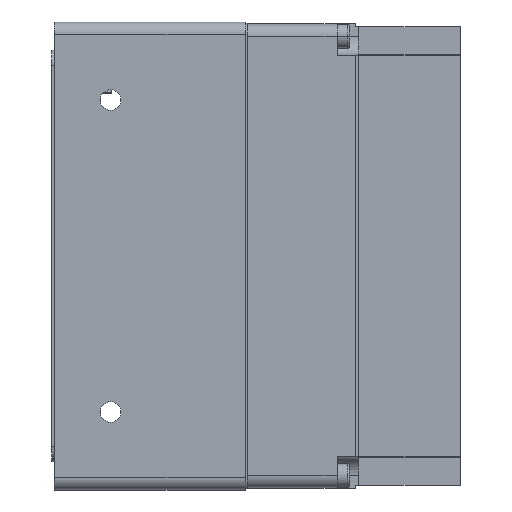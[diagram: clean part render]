
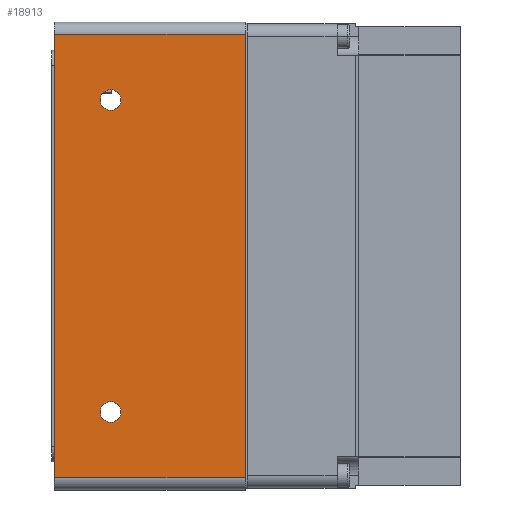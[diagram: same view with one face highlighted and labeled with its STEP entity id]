
A CAD part, left-side view. The second image highlights one B-rep face of the part: STEP entity #18913.
In plain terms, the highlighted planar face has unit normal (-1, 0, 0).
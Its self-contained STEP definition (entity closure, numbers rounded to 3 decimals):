
#162 = CARTESIAN_POINT ( 'NONE',  ( -47.5, 17.75, -35.5 ) ) ;
#646 = CARTESIAN_POINT ( 'NONE',  ( -47.5, 39.3, 25. ) ) ;
#750 = EDGE_LOOP ( 'NONE', ( #12062, #4794 ) ) ;
#793 = CARTESIAN_POINT ( 'NONE',  ( -47.5, 48.3, 55.5 ) ) ;
#964 = EDGE_CURVE ( 'NONE', #15261, #1695, #8756, .T. ) ;
#977 = CARTESIAN_POINT ( 'NONE',  ( -47.5, 48.3, -35.5 ) ) ;
#1108 = ORIENTED_EDGE ( 'NONE', *, *, #11703, .F. ) ;
#1237 = LINE ( 'NONE', #162, #19540 ) ;
#1695 = VERTEX_POINT ( 'NONE', #16387 ) ;
#1969 = DIRECTION ( 'NONE',  ( 0., -1., 0. ) ) ;
#2061 = AXIS2_PLACEMENT_3D ( 'NONE', #646, #13045, #16774 ) ;
#2243 = DIRECTION ( 'NONE',  ( 0., -1., 0. ) ) ;
#3309 = CIRCLE ( 'NONE', #2061, 1.65 ) ;
#3317 = CARTESIAN_POINT ( 'NONE',  ( -47.5, 37.65, 25. ) ) ;
#3901 = AXIS2_PLACEMENT_3D ( 'NONE', #16903, #9602, #20305 ) ;
#4713 = FACE_BOUND ( 'NONE', #750, .T. ) ;
#4794 = ORIENTED_EDGE ( 'NONE', *, *, #16157, .F. ) ;
#5390 = VECTOR ( 'NONE', #21893, 1000. ) ;
#5675 = CARTESIAN_POINT ( 'NONE',  ( -47.5, 40.95, -25. ) ) ;
#6699 = EDGE_CURVE ( 'NONE', #1695, #12284, #7611, .T. ) ;
#7477 = CARTESIAN_POINT ( 'NONE',  ( -47.5, 17.75, 55.5 ) ) ;
#7603 = ORIENTED_EDGE ( 'NONE', *, *, #6699, .T. ) ;
#7611 = LINE ( 'NONE', #793, #5390 ) ;
#7912 = CARTESIAN_POINT ( 'NONE',  ( -47.5, 17.75, 35.5 ) ) ;
#8022 = VERTEX_POINT ( 'NONE', #22908 ) ;
#8215 = CARTESIAN_POINT ( 'NONE',  ( -47.5, 39.3, 25. ) ) ;
#8502 = DIRECTION ( 'NONE',  ( 0., 0., 1. ) ) ;
#8756 = LINE ( 'NONE', #7912, #13463 ) ;
#8842 = AXIS2_PLACEMENT_3D ( 'NONE', #8215, #13468, #20702 ) ;
#8963 = ORIENTED_EDGE ( 'NONE', *, *, #20339, .F. ) ;
#9085 = DIRECTION ( 'NONE',  ( -1., 0., 0. ) ) ;
#9429 = FACE_BOUND ( 'NONE', #21055, .T. ) ;
#9602 = DIRECTION ( 'NONE',  ( -1., 0., 0. ) ) ;
#10298 = CARTESIAN_POINT ( 'NONE',  ( -47.5, 17.7, 53.5 ) ) ;
#10385 = EDGE_CURVE ( 'NONE', #18442, #11546, #3309, .T. ) ;
#11371 = CARTESIAN_POINT ( 'NONE',  ( -47.5, 40.95, 25. ) ) ;
#11546 = VERTEX_POINT ( 'NONE', #3317 ) ;
#11703 = EDGE_CURVE ( 'NONE', #8022, #19875, #12658, .T. ) ;
#11710 = ORIENTED_EDGE ( 'NONE', *, *, #964, .T. ) ;
#11806 = VECTOR ( 'NONE', #8502, 1000. ) ;
#11915 = EDGE_CURVE ( 'NONE', #17726, #15261, #21813, .T. ) ;
#12062 = ORIENTED_EDGE ( 'NONE', *, *, #10385, .F. ) ;
#12284 = VERTEX_POINT ( 'NONE', #977 ) ;
#12650 = DIRECTION ( 'NONE',  ( 0., 1., 0. ) ) ;
#12658 = CIRCLE ( 'NONE', #3901, 1.65 ) ;
#12783 = ORIENTED_EDGE ( 'NONE', *, *, #11915, .T. ) ;
#13045 = DIRECTION ( 'NONE',  ( -1., 0., 0. ) ) ;
#13222 = CIRCLE ( 'NONE', #16171, 1.65 ) ;
#13463 = VECTOR ( 'NONE', #16837, 1000. ) ;
#13468 = DIRECTION ( 'NONE',  ( -1., 0., 0. ) ) ;
#14055 = ORIENTED_EDGE ( 'NONE', *, *, #14342, .T. ) ;
#14342 = EDGE_CURVE ( 'NONE', #12284, #17726, #1237, .T. ) ;
#15261 = VERTEX_POINT ( 'NONE', #22552 ) ;
#16157 = EDGE_CURVE ( 'NONE', #11546, #18442, #18901, .T. ) ;
#16171 = AXIS2_PLACEMENT_3D ( 'NONE', #19709, #9085, #12650 ) ;
#16387 = CARTESIAN_POINT ( 'NONE',  ( -47.5, 48.3, 35.5 ) ) ;
#16774 = DIRECTION ( 'NONE',  ( 0., 1., 0. ) ) ;
#16837 = DIRECTION ( 'NONE',  ( 0., 1., 0. ) ) ;
#16903 = CARTESIAN_POINT ( 'NONE',  ( -47.5, 39.3, -25. ) ) ;
#17726 = VERTEX_POINT ( 'NONE', #22841 ) ;
#18128 = PLANE ( 'NONE',  #20768 ) ;
#18442 = VERTEX_POINT ( 'NONE', #11371 ) ;
#18901 = CIRCLE ( 'NONE', #8842, 1.65 ) ;
#18913 = ADVANCED_FACE ( 'NONE', ( #9429, #4713, #19423 ), #18128, .F. ) ;
#19423 = FACE_OUTER_BOUND ( 'NONE', #21769, .T. ) ;
#19540 = VECTOR ( 'NONE', #1969, 1000. ) ;
#19709 = CARTESIAN_POINT ( 'NONE',  ( -47.5, 39.3, -25. ) ) ;
#19875 = VERTEX_POINT ( 'NONE', #5675 ) ;
#19887 = DIRECTION ( 'NONE',  ( 1., 0., 0. ) ) ;
#20305 = DIRECTION ( 'NONE',  ( 0., 1., 0. ) ) ;
#20339 = EDGE_CURVE ( 'NONE', #19875, #8022, #13222, .T. ) ;
#20702 = DIRECTION ( 'NONE',  ( 0., 1., 0. ) ) ;
#20768 = AXIS2_PLACEMENT_3D ( 'NONE', #7477, #19887, #2243 ) ;
#21055 = EDGE_LOOP ( 'NONE', ( #8963, #1108 ) ) ;
#21769 = EDGE_LOOP ( 'NONE', ( #14055, #12783, #11710, #7603 ) ) ;
#21813 = LINE ( 'NONE', #10298, #11806 ) ;
#21893 = DIRECTION ( 'NONE',  ( 0., 0., -1. ) ) ;
#22552 = CARTESIAN_POINT ( 'NONE',  ( -47.5, 17.7, 35.5 ) ) ;
#22841 = CARTESIAN_POINT ( 'NONE',  ( -47.5, 17.7, -35.5 ) ) ;
#22908 = CARTESIAN_POINT ( 'NONE',  ( -47.5, 37.65, -25. ) ) ;
